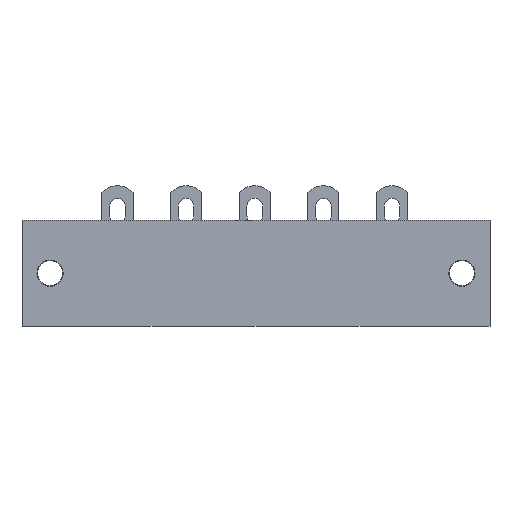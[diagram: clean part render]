
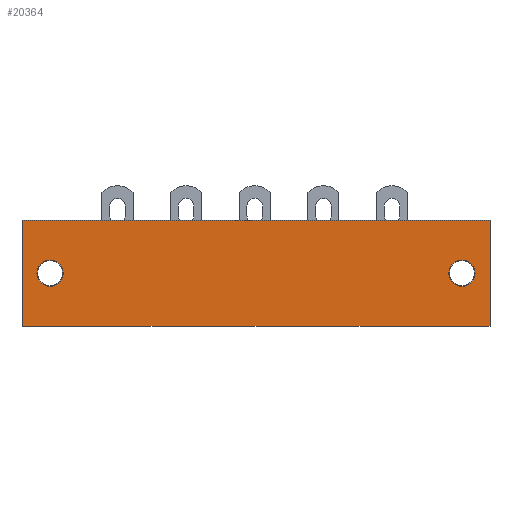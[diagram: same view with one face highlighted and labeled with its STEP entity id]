
A CAD part, front view. The second image highlights one B-rep face of the part: STEP entity #20364.
In plain terms, the highlighted planar face has unit normal (0, -1, 0).
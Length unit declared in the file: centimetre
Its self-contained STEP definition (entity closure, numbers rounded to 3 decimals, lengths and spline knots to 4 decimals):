
#683=CIRCLE('',#32529,0.21);
#727=CIRCLE('',#32796,0.21);
#1512=VERTEX_POINT('',#27184);
#1513=VERTEX_POINT('',#27185);
#1524=VERTEX_POINT('',#27209);
#2002=VERTEX_POINT('',#29161);
#2003=VERTEX_POINT('',#29162);
#2014=VERTEX_POINT('',#29186);
#3577=VECTOR('',#21978,1.);
#4173=VECTOR('',#22907,1.);
#5250=VECTOR('',#25118,1.);
#5251=VECTOR('',#25119,1.);
#5847=LINE('',#27183,#3577);
#6443=LINE('',#29160,#4173);
#7520=LINE('',#32116,#5250);
#7521=LINE('',#32117,#5251);
#8300=EDGE_CURVE('',#1512,#1513,#5847,.T.);
#8312=EDGE_CURVE('',#1524,#1524,#683,.T.);
#9051=EDGE_CURVE('',#2002,#2003,#6443,.T.);
#9063=EDGE_CURVE('',#2014,#2014,#727,.T.);
#10556=EDGE_CURVE('',#2003,#1512,#7520,.T.);
#10557=EDGE_CURVE('',#1513,#2002,#7521,.T.);
#16530=ORIENTED_EDGE('',*,*,#8312,.T.);
#16531=ORIENTED_EDGE('',*,*,#9063,.T.);
#16532=ORIENTED_EDGE('',*,*,#10556,.T.);
#16533=ORIENTED_EDGE('',*,*,#8300,.T.);
#16534=ORIENTED_EDGE('',*,*,#10557,.T.);
#16535=ORIENTED_EDGE('',*,*,#9051,.T.);
#17978=EDGE_LOOP('',(#16530));
#17979=EDGE_LOOP('',(#16531));
#17980=EDGE_LOOP('',(#16532,#16533,#16534,#16535));
#19234=FACE_BOUND('',#17978,.T.);
#19235=FACE_BOUND('',#17979,.T.);
#19236=FACE_BOUND('',#17980,.T.);
#20364=ADVANCED_FACE('',(#19234,#19235,#19236),#21109,.T.);
#21109=PLANE('',#33530);
#21978=DIRECTION('',(0.,0.,1.));
#21996=DIRECTION('',(0.,1.,0.));
#21997=DIRECTION('',(0.21,0.,0.));
#22907=DIRECTION('',(0.,0.,-1.));
#22925=DIRECTION('',(0.,1.,0.));
#22926=DIRECTION('',(-0.21,0.,0.));
#25117=DIRECTION('',(0.,-1.,0.));
#25118=DIRECTION('',(1.,0.,0.));
#25119=DIRECTION('',(-1.,0.,0.));
#27183=CARTESIAN_POINT('',(5.5,0.,0.85));
#27184=CARTESIAN_POINT('',(5.5,0.,-0.85));
#27185=CARTESIAN_POINT('',(5.5,0.,0.85));
#27208=CARTESIAN_POINT('',(5.05,0.,0.));
#27209=CARTESIAN_POINT('',(4.84,0.,0.));
#29160=CARTESIAN_POINT('',(-2.,0.,-0.85));
#29161=CARTESIAN_POINT('',(-2.,0.,0.85));
#29162=CARTESIAN_POINT('',(-2.,0.,-0.85));
#29185=CARTESIAN_POINT('',(-1.55,0.,0.));
#29186=CARTESIAN_POINT('',(-1.34,0.,0.));
#32115=CARTESIAN_POINT('',(0.,0.,0.));
#32116=CARTESIAN_POINT('',(0.,0.,-0.85));
#32117=CARTESIAN_POINT('',(-1.1,0.,0.85));
#32529=AXIS2_PLACEMENT_3D('',#27208,#21996,#21997);
#32796=AXIS2_PLACEMENT_3D('',#29185,#22925,#22926);
#33530=AXIS2_PLACEMENT_3D('',#32115,#25117,$);
